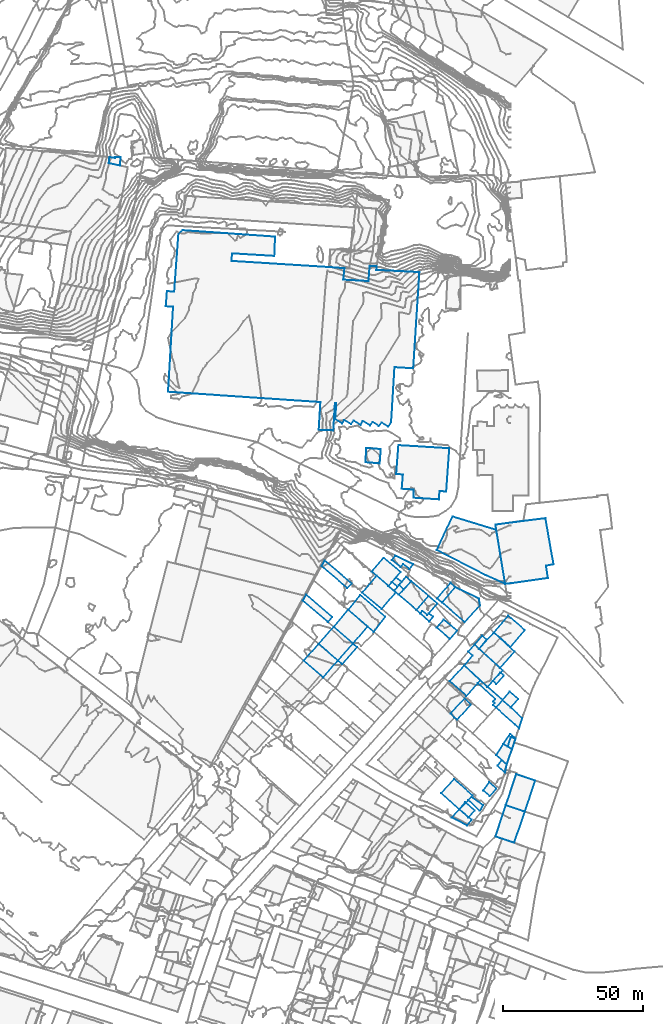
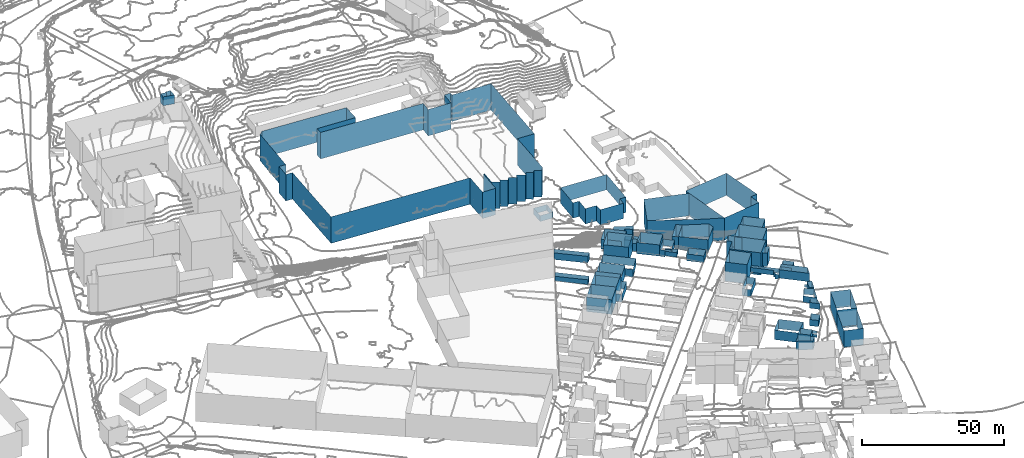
# Not in any storey, part 53 of 419: 46 walls.
"""IFC2X3 model written with IfcOpenShell, lengths in metres."""

from ifc_helpers import new_model, si_unit, frame, origin_with_axes, place, context, subcontext, project, faceted_brep, element, save


model = new_model("IFC2X3")

# Units and contexts
model_context = context("Model", 3, precision=1e-05, world=origin_with_axes())
body_context = subcontext(model_context, "Body", "Model", "MODEL_VIEW")
ifc_project = project(units=[si_unit("AREAUNIT", "SQUARE_METRE"), si_unit("LENGTHUNIT", "METRE")], contexts=[model_context])

# Walls
wall_1_placement = place(None, frame((971.4920204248, 255.6976909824, 80.3019999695), z_axis=(0.0, 0.0, 1.0), x_axis=(1.0, 0.0, 0.0)))
element("IfcWall", 1, at=wall_1_placement, Name="Mur 0", context=body_context, shape_type="Brep", body=[
    faceted_brep([(3.7, -3.3999999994, 2.6980000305), (1.9, -1.8999999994, 2.6980000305), (3.7, -3.3999999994, 0.0), (1.9, -1.8999999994, 0.0), (5.6, 2.0, 2.6980000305), (5.6, 2.0, 0.0), (2.5, 3.9000000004, 2.6980000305), (2.5, 3.9000000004, 0.0), (0.0, 0.0, 2.6980000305), (0.0, 0.0, 0.0)], [[[0, 1, 2]], [[2, 1, 3]], [[4, 0, 5]], [[5, 0, 2]], [[6, 4, 7]], [[7, 4, 5]], [[1, 8, 3]], [[3, 8, 9]], [[8, 6, 9]], [[9, 6, 7]]]),
])
wall_2_placement = place(None, frame((853.2920204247, 416.1976909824, 67.9707989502), z_axis=(0.0, 0.0, 1.0), x_axis=(1.0, 0.0, 0.0)))
element("IfcWall", 2, at=wall_2_placement, Name="Mur 0", context=body_context, shape_type="Brep", body=[
    faceted_brep([(23.5, 16.2000000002, 11.4292010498), (58.4, 14.0, 11.4292010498), (23.5, 16.2000000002, 0.0), (58.4, 14.0, 0.0), (23.7000000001, 18.9000000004, 11.4292010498), (23.7000000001, 18.9000000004, 0.0), (38.8, 18.0, 11.4292010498), (38.8, 18.0, 0.0), (39.1000000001, 24.9000000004, 11.4292010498), (39.1000000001, 24.9000000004, 0.0), (6.0, 27.2000000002, 11.4292010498), (6.0, 27.2000000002, 0.0), (4.5, 25.9000000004, 11.4292010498), (4.5, 25.9000000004, 0.0), (3.0, 5.2000000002, 11.4292010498), (3.0, 5.2000000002, 0.0), (0.4, 5.4000000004, 11.4292010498), (0.4, 5.4000000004, 0.0), (0.0, 0.0, 11.4292010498), (0.0, 0.0, 0.0), (2.6000000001, -0.2000000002, 11.4292010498), (2.6000000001, -0.2000000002, 0.0), (0.8, -30.5999999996, 11.4292010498), (0.8, -30.5999999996, 0.0), (55.3, -34.2999999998, 11.4292010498), (55.3, -34.2999999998, 0.0), (54.7000000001, -44.2000000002, 11.4292010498), (54.7000000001, -44.2000000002, 0.0), (59.9, -44.3999999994, 11.4292010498), (59.9, -44.3999999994, 0.0), (60.5, -34.5999999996, 11.4292010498), (60.5, -34.5999999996, 0.0), (61.0, -34.5999999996, 11.4292010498), (61.0, -34.5999999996, 0.0), (60.6000000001, -40.3999999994, 11.4292010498), (60.6000000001, -40.3999999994, 0.0), (63.0, -41.8999999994, 11.4292010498), (63.0, -41.8999999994, 0.0), (63.8, -40.7000000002, 11.4292010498), (63.8, -40.7000000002, 0.0), (66.2000000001, -42.2000000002, 11.4292010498), (66.2000000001, -42.2000000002, 0.0), (67.1000000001, -40.8999999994, 11.4292010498), (67.1000000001, -40.8999999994, 0.0), (69.6000000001, -42.5, 11.4292010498), (69.6000000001, -42.5, 0.0), (70.4, -41.0, 11.4292010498), (70.4, -41.0, 0.0), (73.0, -42.5999999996, 11.4292010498), (73.0, -42.5999999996, 0.0), (73.9, -41.3999999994, 11.4292010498), (73.9, -41.3999999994, 0.0), (76.2000000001, -42.7999999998, 11.4292010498), (76.2000000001, -42.7999999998, 0.0), (77.1000000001, -41.5999999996, 11.4292010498), (77.1000000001, -41.5999999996, 0.0), (79.6000000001, -43.0, 11.4292010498), (79.6000000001, -43.0, 0.0), (80.6000000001, -41.5, 11.4292010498), (80.6000000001, -41.5, 0.0), (81.8, -21.7999999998, 11.4292010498), (81.8, -21.7999999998, 0.0), (88.5, -22.2000000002, 11.4292010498), (88.5, -22.2000000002, 0.0), (90.7000000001, 12.2000000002, 11.4292010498), (90.7000000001, 12.2000000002, 0.0), (75.3, 13.0, 11.4292010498), (75.3, 13.0, 0.0), (75.4, 14.2999999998, 11.4292010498), (75.4, 14.2999999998, 0.0), (72.9, 14.4000000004, 11.4292010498), (72.9, 14.4000000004, 0.0), (72.5, 9.0, 11.4292010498), (72.5, 9.0, 0.0), (63.5, 9.5, 11.4292010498), (63.5, 9.5, 0.0), (63.9, 13.6000000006, 11.4292010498), (63.9, 13.6000000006, 0.0)], [[[0, 1, 2]], [[2, 1, 3]], [[4, 0, 5]], [[5, 0, 2]], [[6, 4, 7]], [[7, 4, 5]], [[8, 6, 9]], [[9, 6, 7]], [[10, 8, 11]], [[11, 8, 9]], [[12, 10, 13]], [[13, 10, 11]], [[14, 12, 15]], [[15, 12, 13]], [[16, 14, 17]], [[17, 14, 15]], [[18, 16, 19]], [[19, 16, 17]], [[20, 18, 21]], [[21, 18, 19]], [[22, 20, 23]], [[23, 20, 21]], [[24, 22, 25]], [[25, 22, 23]], [[26, 24, 27]], [[27, 24, 25]], [[28, 26, 29]], [[29, 26, 27]], [[30, 28, 31]], [[31, 28, 29]], [[32, 30, 33]], [[33, 30, 31]], [[34, 32, 35]], [[35, 32, 33]], [[36, 34, 37]], [[37, 34, 35]], [[38, 36, 39]], [[39, 36, 37]], [[40, 38, 41]], [[41, 38, 39]], [[42, 40, 43]], [[43, 40, 41]], [[44, 42, 45]], [[45, 42, 43]], [[46, 44, 47]], [[47, 44, 45]], [[48, 46, 49]], [[49, 46, 47]], [[50, 48, 51]], [[51, 48, 49]], [[52, 50, 53]], [[53, 50, 51]], [[54, 52, 55]], [[55, 52, 53]], [[56, 54, 57]], [[57, 54, 55]], [[58, 56, 59]], [[59, 56, 57]], [[60, 58, 61]], [[61, 58, 59]], [[62, 60, 63]], [[63, 60, 61]], [[64, 62, 65]], [[65, 62, 63]], [[66, 64, 67]], [[67, 64, 65]], [[68, 66, 69]], [[69, 66, 67]], [[70, 68, 71]], [[71, 68, 69]], [[72, 70, 73]], [[73, 70, 71]], [[74, 72, 75]], [[75, 72, 73]], [[1, 76, 3]], [[3, 76, 77]], [[76, 74, 77]], [[77, 74, 75]]]),
])
wall_3_placement = place(None, frame((950.2920204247, 311.5976909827, 77.1379985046), z_axis=(0.0, 0.0, 1.0), x_axis=(1.0, 0.0, 0.0)))
element("IfcWall", 3, at=wall_3_placement, Name="Mur 0", context=body_context, shape_type="Brep", body=[
    faceted_brep([(0.0, 0.0, 5.0620014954), (4.9, 5.7999999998, 5.0620014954), (0.0, 0.0, 0.0), (4.9, 5.7999999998, 0.0), (1.8, -1.4000000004, 5.0620014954), (1.8, -1.4000000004, 0.0), (6.5, 4.0999999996, 5.0620014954), (6.5, 4.0999999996, 0.0)], [[[0, 1, 2]], [[2, 1, 3]], [[4, 0, 5]], [[5, 0, 2]], [[1, 6, 3]], [[3, 6, 7]], [[6, 4, 7]], [[7, 4, 5]]]),
])
wall_4_placement = place(None, frame((952.0920204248, 310.1976909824, 76.712000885), z_axis=(0.0, 0.0, 1.0), x_axis=(1.0, 0.0, 0.0)))
element("IfcWall", 4, at=wall_4_placement, Name="Mur 0", context=body_context, shape_type="Brep", body=[
    faceted_brep([(8.1, -7.0, 5.587999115), (0.0, 0.0, 5.587999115), (8.1, -7.0, 0.0), (0.0, 0.0, 0.0), (13.6, -1.0, 5.587999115), (13.6, -1.0, 0.0), (13.2, 1.4000000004, 5.587999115), (13.2, 1.4000000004, 0.0), (4.7, 5.5, 5.587999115), (4.7, 5.5, 0.0)], [[[0, 1, 2]], [[2, 1, 3]], [[4, 0, 5]], [[5, 0, 2]], [[6, 4, 7]], [[7, 4, 5]], [[1, 8, 3]], [[3, 8, 9]], [[8, 6, 9]], [[9, 6, 7]]]),
])
wall_5_placement = place(None, frame((971.1920204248, 226.4976909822, 78.6313998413), z_axis=(0.0, 0.0, 1.0), x_axis=(1.0, 0.0, 0.0)))
element("IfcWall", 5, at=wall_5_placement, Name="Mur 0", context=body_context, shape_type="Brep", body=[
    faceted_brep([(6.7000000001, -2.1999999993, 7.1686001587), (0.0, 0.0, 7.1686001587), (6.7000000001, -2.1999999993, 0.0), (0.0, 0.0, 0.0), (10.5, 8.9000000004, 7.1686001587), (10.5, 8.9000000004, 0.0), (3.7000000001, 11.2000000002, 7.1686001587), (3.7000000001, 11.2000000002, 0.0)], [[[0, 1, 2]], [[2, 1, 3]], [[4, 0, 5]], [[5, 0, 2]], [[1, 6, 3]], [[3, 6, 7]], [[6, 4, 7]], [[7, 4, 5]]]),
])
wall_6_placement = place(None, frame((974.8920204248, 237.6976909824, 79.1500015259), z_axis=(0.0, 0.0, 1.0), x_axis=(1.0, 0.0, 0.0)))
element("IfcWall", 6, at=wall_6_placement, Name="Mur 0", context=body_context, shape_type="Brep", body=[
    faceted_brep([(6.7999999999, -2.2999999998, 7.3499984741), (0.0, 0.0, 7.3499984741), (6.7999999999, -2.2999999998, 0.0), (0.0, 0.0, 0.0), (10.5, 8.7999999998, 7.3499984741), (10.5, 8.7999999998, 0.0), (3.7, 11.1000000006, 7.3499984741), (3.7, 11.1000000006, 0.0)], [[[0, 1, 2]], [[2, 1, 3]], [[4, 0, 5]], [[5, 0, 2]], [[1, 6, 3]], [[3, 6, 7]], [[6, 4, 7]], [[7, 4, 5]]]),
])
wall_7_placement = place(None, frame((973.9920204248, 259.5976909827, 80.5100021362), z_axis=(0.0, 0.0, 1.0), x_axis=(1.0, 0.0, 0.0)))
element("IfcWall", 7, at=wall_7_placement, Name="Mur 0", context=body_context, shape_type="Brep", body=[
    faceted_brep([(1.6, -0.9000000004, 1.1899978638), (0.0, 0.0, 1.1899978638), (1.6, -0.9000000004, 0.0), (0.0, 0.0, 0.0), (2.7, 2.3999999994, 1.1899978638), (2.7, 2.3999999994, 0.0), (4.4, 2.0, 1.1899978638), (4.4, 2.0, 0.0), (2.4, 3.5999999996, 1.1899978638), (2.4, 3.5999999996, 0.0)], [[[0, 1, 2]], [[2, 1, 3]], [[4, 0, 5]], [[5, 0, 2]], [[6, 4, 7]], [[7, 4, 5]], [[1, 8, 3]], [[3, 8, 9]], [[8, 6, 9]], [[9, 6, 7]]]),
])
wall_8_placement = place(None, frame((971.3920204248, 272.5976909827, 80.4740020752), z_axis=(0.0, 0.0, 1.0), x_axis=(1.0, 0.0, 0.0)))
element("IfcWall", 8, at=wall_8_placement, Name="Mur 0", context=body_context, shape_type="Brep", body=[
    faceted_brep([(6.7999999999, -6.1000000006, 3.6259979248), (0.0, 0.0, 3.6259979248), (6.7999999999, -6.1000000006, 0.0), (0.0, 0.0, 0.0), (8.2, -7.4000000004, 3.6259979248), (8.2, -7.4000000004, 0.0), (9.3999999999, -3.7999999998, 3.6259979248), (9.3999999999, -3.7999999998, 0.0), (5.2, 0.0999999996, 3.6259979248), (5.2, 0.0999999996, 0.0), (2.2999999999, 2.7000000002, 3.6259979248), (2.2999999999, 2.7000000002, 0.0)], [[[0, 1, 2]], [[2, 1, 3]], [[4, 0, 5]], [[5, 0, 2]], [[6, 4, 7]], [[7, 4, 5]], [[8, 6, 9]], [[9, 6, 7]], [[1, 10, 3]], [[3, 10, 11]], [[10, 8, 11]], [[11, 8, 9]]]),
])
wall_9_placement = place(None, frame((964.8920204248, 281.3976909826, 79.9339981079), z_axis=(0.0, 0.0, 1.0), x_axis=(1.0, 0.0, 0.0)))
element("IfcWall", 9, at=wall_9_placement, Name="Mur 0", context=body_context, shape_type="Brep", body=[
    faceted_brep([(8.7999999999, -6.0999999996, 2.0660018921), (6.5, -8.7999999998, 2.0660018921), (8.7999999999, -6.0999999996, 0.0), (6.5, -8.7999999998, 0.0), (0.7999999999, 0.9000000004, 2.0660018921), (0.7999999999, 0.9000000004, 0.0), (0.0, 0.0, 2.0660018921), (0.0, 0.0, 0.0), (6.2, -5.7000000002, 2.0660018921), (6.2, -5.7000000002, 0.0), (5.5, -6.5999999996, 2.0660018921), (5.5, -6.5999999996, 0.0), (6.0, -7.0999999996, 2.0660018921), (6.0, -7.0999999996, 0.0), (5.3999999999, -7.7999999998, 2.0660018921), (5.3999999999, -7.7999999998, 0.0)], [[[0, 1, 2]], [[2, 1, 3]], [[4, 0, 5]], [[5, 0, 2]], [[6, 4, 7]], [[7, 4, 5]], [[8, 6, 9]], [[9, 6, 7]], [[10, 8, 11]], [[11, 8, 9]], [[12, 10, 13]], [[13, 10, 11]], [[1, 14, 3]], [[3, 14, 15]], [[14, 12, 15]], [[15, 12, 13]]]),
])
wall_10_placement = place(None, frame((975.5920204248, 258.6976909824, 80.5100021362), z_axis=(0.0, 0.0, 1.0), x_axis=(1.0, 0.0, 0.0)))
element("IfcWall", 10, at=wall_10_placement, Name="Mur 0", context=body_context, shape_type="Brep", body=[
    faceted_brep([(1.5, -1.0, 2.9899978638), (0.0, 0.0, 2.9899978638), (1.5, -1.0, 0.0), (0.0, 0.0, 0.0), (2.8, 2.9000000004, 2.9899978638), (2.8, 2.9000000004, 0.0), (1.1, 3.2999999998, 2.9899978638), (1.1, 3.2999999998, 0.0)], [[[0, 1, 2]], [[2, 1, 3]], [[4, 0, 5]], [[5, 0, 2]], [[1, 6, 3]], [[3, 6, 7]], [[6, 4, 7]], [[7, 4, 5]]]),
])
wall_11_placement = place(None, frame((959.9920204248, 287.6976909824, 78.2919990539), z_axis=(0.0, 0.0, 1.0), x_axis=(1.0, 0.0, 0.0)))
element("IfcWall", 11, at=wall_11_placement, Name="Mur 0", context=body_context, shape_type="Brep", body=[
    faceted_brep([(8.2999999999, -7.7000000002, 9.6080009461), (0.0, 0.0, 9.6080009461), (8.2999999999, -7.7000000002, 0.0), (0.0, 0.0, 0.0), (13.7, -1.7999999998, 9.6080009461), (13.7, -1.7999999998, 0.0), (3.7, 7.4000000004, 9.6080009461), (3.7, 7.4000000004, 0.0), (1.5, 4.9000000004, 9.6080009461), (1.5, 4.9000000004, 0.0), (3.0, 3.5, 9.6080009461), (3.0, 3.5, 0.0)], [[[0, 1, 2]], [[2, 1, 3]], [[4, 0, 5]], [[5, 0, 2]], [[6, 4, 7]], [[7, 4, 5]], [[8, 6, 9]], [[9, 6, 7]], [[1, 10, 3]], [[3, 10, 11]], [[10, 8, 11]], [[11, 8, 9]]]),
])
wall_12_placement = place(None, frame((971.1920204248, 338.0976909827, 68.7699966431), z_axis=(0.0, 0.0, 1.0), x_axis=(1.0, 0.0, 0.0)))
element("IfcWall", 12, at=wall_12_placement, Name="Mur 0", context=body_context, shape_type="Brep", body=[
    faceted_brep([(18.8, -19.1000000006, 9.6300033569), (5.5, -21.0, 9.6300033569), (18.8, -19.1000000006, 0.0), (5.5, -21.0, 0.0), (18.1, -14.7000000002, 9.6300033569), (18.1, -14.7000000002, 0.0), (20.8, -14.2000000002, 9.6300033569), (20.8, -14.2000000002, 0.0), (17.9, 2.2999999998, 9.6300033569), (17.9, 2.2999999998, 0.0), (0.0, 0.0, 9.6300033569), (0.0, 0.0, 0.0), (3.5, -21.2000000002, 9.6300033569), (3.5, -21.2000000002, 0.0)], [[[0, 1, 2]], [[2, 1, 3]], [[4, 0, 5]], [[5, 0, 2]], [[6, 4, 7]], [[7, 4, 5]], [[8, 6, 9]], [[9, 6, 7]], [[10, 8, 11]], [[11, 8, 9]], [[1, 12, 3]], [[3, 12, 13]], [[12, 10, 13]], [[13, 10, 11]]]),
])
wall_13_placement = place(None, frame((923.4920204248, 313.6976909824, 79.7437991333), z_axis=(0.0, 0.0, 1.0), x_axis=(1.0, 0.0, 0.0)))
element("IfcWall", 13, at=wall_13_placement, Name="Mur 0", context=body_context, shape_type="Brep", body=[
    faceted_brep([(0.0, 0.0, 6.9562008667), (5.2, 6.1000000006, 6.9562008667), (0.0, 0.0, 0.0), (5.2, 6.1000000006, 0.0), (6.9, -5.7999999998, 6.9562008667), (6.9, -5.7999999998, 0.0), (12.0, 0.1000000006, 6.9562008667), (12.0, 0.1000000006, 0.0)], [[[0, 1, 2]], [[2, 1, 3]], [[4, 0, 5]], [[5, 0, 2]], [[1, 6, 3]], [[3, 6, 7]], [[6, 4, 7]], [[7, 4, 5]]]),
])
wall_14_placement = place(None, frame((944.2920204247, 306.2976909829, 79.112399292), z_axis=(0.0, 0.0, 1.0), x_axis=(1.0, 0.0, 0.0)))
element("IfcWall", 14, at=wall_14_placement, Name="Mur 0", context=body_context, shape_type="Brep", body=[
    faceted_brep([(2.5, -0.5, 1.987600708), (3.0, 0.0, 1.987600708), (2.5, -0.5, 0.0), (3.0, 0.0, 0.0), (0.7000000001, 0.8999999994, 1.987600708), (0.7000000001, 0.8999999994, 0.0), (0.0, 0.0, 1.987600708), (0.0, 0.0, 0.0), (3.2000000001, -2.9000000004, 1.987600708), (3.2000000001, -2.9000000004, 0.0), (4.6000000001, -1.2000000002, 1.987600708), (4.6000000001, -1.2000000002, 0.0)], [[[0, 1, 2]], [[2, 1, 3]], [[4, 0, 5]], [[5, 0, 2]], [[6, 4, 7]], [[7, 4, 5]], [[8, 6, 9]], [[9, 6, 7]], [[1, 10, 3]], [[3, 10, 11]], [[10, 8, 11]], [[11, 8, 9]]]),
])
wall_15_placement = place(None, frame((970.5920204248, 299.4976909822, 76.8079986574), z_axis=(0.0, 0.0, 1.0), x_axis=(1.0, 0.0, 0.0)))
element("IfcWall", 15, at=wall_15_placement, Name="Mur 0", context=body_context, shape_type="Brep", body=[
    faceted_brep([(5.9, -5.1999999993, 8.7920013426), (0.0, 0.0, 8.7920013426), (5.9, -5.1999999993, 0.0), (0.0, 0.0, 0.0), (11.1, 0.8000000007, 8.7920013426), (11.1, 0.8000000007, 0.0), (5.2, 6.0, 8.7920013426), (5.2, 6.0, 0.0)], [[[0, 1, 2]], [[2, 1, 3]], [[4, 0, 5]], [[5, 0, 2]], [[1, 6, 3]], [[3, 6, 7]], [[6, 4, 7]], [[7, 4, 5]]]),
])
wall_16_placement = place(None, frame((950.1920204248, 328.9976909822, 68.682399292), z_axis=(0.0, 0.0, 1.0), x_axis=(1.0, 0.0, 0.0)))
element("IfcWall", 16, at=wall_16_placement, Name="Mur 0", context=body_context, shape_type="Brep", body=[
    faceted_brep([(5.6, 12.0, 9.717600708), (21.3, 7.2000000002, 9.717600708), (5.6, 12.0, 0.0), (21.3, 7.2000000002, 0.0), (0.0, 0.0, 9.717600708), (0.0, 0.0, 0.0), (17.5, -9.0, 9.717600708), (17.5, -9.0, 0.0), (24.5, -12.0999999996, 9.717600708), (24.5, -12.0999999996, 0.0)], [[[0, 1, 2]], [[2, 1, 3]], [[4, 0, 5]], [[5, 0, 2]], [[6, 4, 7]], [[7, 4, 5]], [[1, 8, 3]], [[3, 8, 9]], [[8, 6, 9]], [[9, 6, 7]]]),
])
wall_17_placement = place(None, frame((934.0920204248, 317.5976909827, 79.4200027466), z_axis=(0.0, 0.0, 1.0), x_axis=(1.0, 0.0, 0.0)))
element("IfcWall", 17, at=wall_17_placement, Name="Mur 0", context=body_context, shape_type="Brep", body=[
    faceted_brep([(0.0, 0.0, 3.3799972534), (1.5, 1.5999999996, 3.3799972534), (0.0, 0.0, 0.0), (1.5, 1.5999999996, 0.0), (2.0, -1.7999999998, 3.3799972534), (2.0, -1.7999999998, 0.0), (3.5, 0.0, 3.3799972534), (3.5, 0.0, 0.0)], [[[0, 1, 2]], [[2, 1, 3]], [[4, 0, 5]], [[5, 0, 2]], [[1, 6, 3]], [[3, 6, 7]], [[6, 4, 7]], [[7, 4, 5]]]),
])
wall_18_placement = place(None, frame((907.8920204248, 295.3976909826, 79.9370018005), z_axis=(0.0, 0.0, 1.0), x_axis=(1.0, 0.0, 0.0)))
element("IfcWall", 18, at=wall_18_placement, Name="Mur 0", context=body_context, shape_type="Brep", body=[
    faceted_brep([(0.0, 0.0, 6.2629981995), (5.3999999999, 6.0999999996, 6.2629981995), (0.0, 0.0, 0.0), (5.3999999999, 6.0999999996, 0.0), (6.8999999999, -5.9000000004, 6.2629981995), (6.8999999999, -5.9000000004, 0.0), (12.2999999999, 0.0999999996, 6.2629981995), (12.2999999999, 0.0999999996, 0.0)], [[[0, 1, 2]], [[2, 1, 3]], [[4, 0, 5]], [[5, 0, 2]], [[1, 6, 3]], [[3, 6, 7]], [[6, 4, 7]], [[7, 4, 5]]]),
])
wall_19_placement = place(None, frame((955.5920204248, 233.2976909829, 78.8300018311), z_axis=(0.0, 0.0, 1.0), x_axis=(1.0, 0.0, 0.0)))
element("IfcWall", 19, at=wall_19_placement, Name="Mur 0", context=body_context, shape_type="Brep", body=[
    faceted_brep([(5.4, -2.8000000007, 3.7699981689), (0.0, 0.0, 3.7699981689), (5.4, -2.8000000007, 0.0), (0.0, 0.0, 0.0), (7.1, -0.8000000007, 3.7699981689), (7.1, -0.8000000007, 0.0), (2.6, 2.8999999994, 3.7699981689), (2.6, 2.8999999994, 0.0)], [[[0, 1, 2]], [[2, 1, 3]], [[4, 0, 5]], [[5, 0, 2]], [[1, 6, 3]], [[3, 6, 7]], [[6, 4, 7]], [[7, 4, 5]]]),
])
wall_20_placement = place(None, frame((935.6920204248, 356.1976909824, 68.0809967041), z_axis=(0.0, 0.0, 1.0), x_axis=(1.0, 0.0, 0.0)))
element("IfcWall", 20, at=wall_20_placement, Name="Mur 0", context=body_context, shape_type="Brep", body=[
    faceted_brep([(0.8, 10.2999999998, 6.6190032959), (19.0, 9.2000000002, 6.6190032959), (0.8, 10.2999999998, 0.0), (19.0, 9.2000000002, 0.0), (0.0, 0.0, 6.6190032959), (0.0, 0.0, 0.0), (2.4, -0.2000000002, 6.6190032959), (2.4, -0.2000000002, 0.0), (2.0, -5.2999999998, 6.6190032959), (2.0, -5.2999999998, 0.0), (6.3, -5.5999999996, 6.6190032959), (6.3, -5.5999999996, 0.0), (6.2000000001, -8.5, 6.6190032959), (6.2000000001, -8.5, 0.0), (15.3, -9.0999999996, 6.6190032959), (15.3, -9.0999999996, 0.0), (15.5, -6.0999999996, 6.6190032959), (15.5, -6.0999999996, 0.0), (17.9, -6.2999999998, 6.6190032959), (17.9, -6.2999999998, 0.0)], [[[0, 1, 2]], [[2, 1, 3]], [[4, 0, 5]], [[5, 0, 2]], [[6, 4, 7]], [[7, 4, 5]], [[8, 6, 9]], [[9, 6, 7]], [[10, 8, 11]], [[11, 8, 9]], [[12, 10, 13]], [[13, 10, 11]], [[14, 12, 15]], [[15, 12, 13]], [[16, 14, 17]], [[17, 14, 15]], [[1, 18, 3]], [[3, 18, 19]], [[18, 16, 19]], [[19, 16, 17]]]),
])
wall_21_placement = place(None, frame((926.8920204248, 321.2976909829, 79.1452018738), z_axis=(0.0, 0.0, 1.0), x_axis=(1.0, 0.0, 0.0)))
element("IfcWall", 21, at=wall_21_placement, Name="Mur 0", context=body_context, shape_type="Brep", body=[
    faceted_brep([(6.0, -5.2000000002, 4.1547981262), (0.0, 0.0, 4.1547981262), (6.0, -5.2000000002, 0.0), (0.0, 0.0, 0.0), (10.2999999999, -0.2000000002, 4.1547981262), (10.2999999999, -0.2000000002, 0.0), (4.2999999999, 4.8999999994, 4.1547981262), (4.2999999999, 4.8999999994, 0.0)], [[[0, 1, 2]], [[2, 1, 3]], [[4, 0, 5]], [[5, 0, 2]], [[1, 6, 3]], [[3, 6, 7]], [[6, 4, 7]], [[7, 4, 5]]]),
])
wall_22_placement = place(None, frame((936.6920204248, 316.3976909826, 78.9909980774), z_axis=(0.0, 0.0, 1.0), x_axis=(1.0, 0.0, 0.0)))
element("IfcWall", 22, at=wall_22_placement, Name="Mur 0", context=body_context, shape_type="Brep", body=[
    faceted_brep([(0.0, 0.0, 2.5090019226), (2.5, 3.0, 2.5090019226), (0.0, 0.0, 0.0), (2.5, 3.0, 0.0), (1.7000000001, -1.5, 2.5090019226), (1.7000000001, -1.5, 0.0), (4.4, 1.4000000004, 2.5090019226), (4.4, 1.4000000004, 0.0)], [[[0, 1, 2]], [[2, 1, 3]], [[4, 0, 5]], [[5, 0, 2]], [[1, 6, 3]], [[3, 6, 7]], [[6, 4, 7]], [[7, 4, 5]]]),
])
wall_23_placement = place(None, frame((924.6920204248, 360.3976909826, 67.922800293), z_axis=(0.0, 0.0, 1.0), x_axis=(1.0, 0.0, 0.0)))
element("IfcWall", 23, at=wall_23_placement, Name="Mur 0", context=body_context, shape_type="Brep", body=[
    faceted_brep([(5.5, 4.7000000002, 2.577199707), (5.1, -0.4000000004, 2.577199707), (5.5, 4.7000000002, 0.0), (5.1, -0.4000000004, 0.0), (0.3, 5.0999999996, 2.577199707), (0.3, 5.0999999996, 0.0), (0.0, 0.0, 2.577199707), (0.0, 0.0, 0.0)], [[[0, 1, 2]], [[2, 1, 3]], [[4, 0, 5]], [[5, 0, 2]], [[1, 6, 3]], [[3, 6, 7]], [[6, 4, 7]], [[7, 4, 5]]]),
])
wall_24_placement = place(None, frame((961.4920204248, 239.5976909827, 79.2879989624), z_axis=(0.0, 0.0, 1.0), x_axis=(1.0, 0.0, 0.0)))
element("IfcWall", 24, at=wall_24_placement, Name="Mur 0", context=body_context, shape_type="Brep", body=[
    faceted_brep([(0.0, 0.0, 1.2120010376), (1.1, 1.0999999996, 1.2120010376), (0.0, 0.0, 0.0), (1.1, 1.0999999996, 0.0), (4.1, -3.9000000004, 1.2120010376), (4.1, -3.9000000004, 0.0), (5.2999999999, -1.9000000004, 1.2120010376), (5.2999999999, -1.9000000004, 0.0)], [[[0, 1, 2]], [[2, 1, 3]], [[4, 0, 5]], [[5, 0, 2]], [[1, 6, 3]], [[3, 6, 7]], [[6, 4, 7]], [[7, 4, 5]]]),
])
wall_25_placement = place(None, frame((963.6920204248, 295.0976909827, 78.1581996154), z_axis=(0.0, 0.0, 1.0), x_axis=(1.0, 0.0, 0.0)))
element("IfcWall", 25, at=wall_25_placement, Name="Mur 0", context=body_context, shape_type="Brep", body=[
    faceted_brep([(1.6, -1.5, 5.0418003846), (0.0, 0.0, 5.0418003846), (1.6, -1.5, 0.0), (0.0, 0.0, 0.0), (4.3, 1.7999999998, 5.0418003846), (4.3, 1.7999999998, 0.0), (2.8, 3.2000000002, 5.0418003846), (2.8, 3.2000000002, 0.0)], [[[0, 1, 2]], [[2, 1, 3]], [[4, 0, 5]], [[5, 0, 2]], [[1, 6, 3]], [[3, 6, 7]], [[6, 4, 7]], [[7, 4, 5]]]),
])
wall_26_placement = place(None, frame((966.7920204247, 242.9976909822, 79.511000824), z_axis=(0.0, 0.0, 1.0), x_axis=(1.0, 0.0, 0.0)))
element("IfcWall", 26, at=wall_26_placement, Name="Mur 0", context=body_context, shape_type="Brep", body=[
    faceted_brep([(4.7000000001, 0.7000000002, 2.688999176), (2.4, -2.0999999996, 2.688999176), (4.7000000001, 0.7000000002, 0.0), (2.4, -2.0999999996, 0.0), (2.2000000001, 2.9000000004, 2.688999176), (2.2000000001, 2.9000000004, 0.0), (0.0, 0.0, 2.688999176), (0.0, 0.0, 0.0)], [[[0, 1, 2]], [[2, 1, 3]], [[4, 0, 5]], [[5, 0, 2]], [[1, 6, 3]], [[3, 6, 7]], [[6, 4, 7]], [[7, 4, 5]]]),
])
wall_27_placement = place(None, frame((951.7920204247, 241.9976909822, 79.3996029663), z_axis=(0.0, 0.0, 1.0), x_axis=(1.0, 0.0, 0.0)))
element("IfcWall", 27, at=wall_27_placement, Name="Mur 0", context=body_context, shape_type="Brep", body=[
    faceted_brep([(0.0, 0.0, 4.1003970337), (4.6000000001, 5.0, 4.1003970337), (0.0, 0.0, 0.0), (4.6000000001, 5.0, 0.0), (6.4, -5.7999999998, 4.1003970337), (6.4, -5.7999999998, 0.0), (11.3, -0.8999999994, 4.1003970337), (11.3, -0.8999999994, 0.0)], [[[0, 1, 2]], [[2, 1, 3]], [[4, 0, 5]], [[5, 0, 2]], [[1, 6, 3]], [[3, 6, 7]], [[6, 4, 7]], [[7, 4, 5]]]),
])
wall_28_placement = place(None, frame((958.1920204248, 236.1976909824, 79.2257979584), z_axis=(0.0, 0.0, 1.0), x_axis=(1.0, 0.0, 0.0)))
element("IfcWall", 28, at=wall_28_placement, Name="Mur 0", context=body_context, shape_type="Brep", body=[
    faceted_brep([(3.3, -2.8999999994, 3.9742020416), (0.0, 0.0, 3.9742020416), (3.3, -2.8999999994, 0.0), (0.0, 0.0, 0.0), (5.5, -0.3999999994, 3.9742020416), (5.5, -0.3999999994, 0.0), (2.2000000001, 2.6000000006, 3.9742020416), (2.2000000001, 2.6000000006, 0.0)], [[[0, 1, 2]], [[2, 1, 3]], [[4, 0, 5]], [[5, 0, 2]], [[1, 6, 3]], [[3, 6, 7]], [[6, 4, 7]], [[7, 4, 5]]]),
])
wall_29_placement = place(None, frame((908.9920204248, 323.1976909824, 79.6230010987), z_axis=(0.0, 0.0, 1.0), x_axis=(1.0, 0.0, 0.0)))
element("IfcWall", 29, at=wall_29_placement, Name="Mur 0", context=body_context, shape_type="Brep", body=[
    faceted_brep([(0.0, 0.0, 2.8769989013), (1.1, 2.0, 2.8769989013), (0.0, 0.0, 0.0), (1.1, 2.0, 0.0), (9.2, -7.7999999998, 2.8769989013), (9.2, -7.7999999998, 0.0), (10.7999999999, -6.2000000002, 2.8769989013), (10.7999999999, -6.2000000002, 0.0)], [[[0, 1, 2]], [[2, 1, 3]], [[4, 0, 5]], [[5, 0, 2]], [[1, 6, 3]], [[3, 6, 7]], [[6, 4, 7]], [[7, 4, 5]]]),
])
wall_30_placement = place(None, frame((971.8920204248, 251.7976909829, 79.9519989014), z_axis=(0.0, 0.0, 1.0), x_axis=(1.0, 0.0, 0.0)))
element("IfcWall", 30, at=wall_30_placement, Name="Mur 0", context=body_context, shape_type="Brep", body=[
    faceted_brep([(3.2999999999, 0.5, 2.4480010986), (2.7, -2.5, 2.4480010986), (3.2999999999, 0.5, 0.0), (2.7, -2.5, 0.0), (1.5, 2.0, 2.4480010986), (1.5, 2.0, 0.0), (0.0, 0.0, 2.4480010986), (0.0, 0.0, 0.0)], [[[0, 1, 2]], [[2, 1, 3]], [[4, 0, 5]], [[5, 0, 2]], [[1, 6, 3]], [[3, 6, 7]], [[6, 4, 7]], [[7, 4, 5]]]),
])
wall_31_placement = place(None, frame((914.7920204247, 289.4976909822, 79.9668006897), z_axis=(0.0, 0.0, 1.0), x_axis=(1.0, 0.0, 0.0)))
element("IfcWall", 31, at=wall_31_placement, Name="Mur 0", context=body_context, shape_type="Brep", body=[
    faceted_brep([(1.6000000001, -1.2999999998, 3.2331993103), (0.0, 0.0, 3.2331993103), (1.6000000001, -1.2999999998, 0.0), (0.0, 0.0, 0.0), (6.9, 4.7000000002, 3.2331993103), (6.9, 4.7000000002, 0.0), (5.4, 6.0, 3.2331993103), (5.4, 6.0, 0.0)], [[[0, 1, 2]], [[2, 1, 3]], [[4, 0, 5]], [[5, 0, 2]], [[1, 6, 3]], [[3, 6, 7]], [[6, 4, 7]], [[7, 4, 5]]]),
])
wall_32_placement = place(None, frame((942.8920204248, 307.5976909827, 78.6759994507), z_axis=(0.0, 0.0, 1.0), x_axis=(1.0, 0.0, 0.0)))
element("IfcWall", 32, at=wall_32_placement, Name="Mur 0", context=body_context, shape_type="Brep", body=[
    faceted_brep([(0.0, 0.0, 2.8240005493), (4.2999999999, 5.0, 2.8240005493), (0.0, 0.0, 0.0), (4.2999999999, 5.0, 0.0), (1.3999999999, -1.2999999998, 2.8240005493), (1.3999999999, -1.2999999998, 0.0), (2.1, -0.4000000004, 2.8240005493), (2.1, -0.4000000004, 0.0), (3.8999999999, -1.7999999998, 2.8240005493), (3.8999999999, -1.7999999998, 0.0), (7.5, 2.2999999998, 2.8240005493), (7.5, 2.2999999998, 0.0)], [[[0, 1, 2]], [[2, 1, 3]], [[4, 0, 5]], [[5, 0, 2]], [[6, 4, 7]], [[7, 4, 5]], [[8, 6, 9]], [[9, 6, 7]], [[1, 10, 3]], [[3, 10, 11]], [[10, 8, 11]], [[11, 8, 9]]]),
])
wall_33_placement = place(None, frame((934.1920204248, 325.3976909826, 78.4769989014), z_axis=(0.0, 0.0, 1.0), x_axis=(1.0, 0.0, 0.0)))
element("IfcWall", 33, at=wall_33_placement, Name="Mur 0", context=body_context, shape_type="Brep", body=[
    faceted_brep([(0.0, 0.0, 3.7230010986), (1.2000000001, 1.5999999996, 3.7230010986), (0.0, 0.0, 0.0), (1.2000000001, 1.5999999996, 0.0), (3.0, -2.5, 3.7230010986), (3.0, -2.5, 0.0), (4.0, -1.5, 3.7230010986), (4.0, -1.5, 0.0), (6.2000000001, -3.2000000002, 3.7230010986), (6.2000000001, -3.2000000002, 0.0), (7.6, -1.5, 3.7230010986), (7.6, -1.5, 0.0)], [[[0, 1, 2]], [[2, 1, 3]], [[4, 0, 5]], [[5, 0, 2]], [[6, 4, 7]], [[7, 4, 5]], [[8, 6, 9]], [[9, 6, 7]], [[1, 10, 3]], [[3, 10, 11]], [[10, 8, 11]], [[11, 8, 9]]]),
])
wall_34_placement = place(None, frame((832.8920204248, 467.3976909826, 85.0730003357), z_axis=(0.0, 0.0, 1.0), x_axis=(1.0, 0.0, 0.0)))
element("IfcWall", 34, at=wall_34_placement, Name="Mur 0", context=body_context, shape_type="Brep", body=[
    faceted_brep([(0.0, 0.0, 3.8269996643), (0.2, 2.2000000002, 3.8269996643), (0.0, 0.0, 0.0), (0.2, 2.2000000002, 0.0), (4.0, -0.9000000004, 3.8269996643), (4.0, -0.9000000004, 0.0), (4.2, 2.2000000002, 3.8269996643), (4.2, 2.2000000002, 0.0), (2.2999999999, 2.2000000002, 3.8269996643), (2.2999999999, 2.2000000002, 0.0), (2.2999999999, 1.7999999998, 3.8269996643), (2.2999999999, 1.7999999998, 0.0)], [[[0, 1, 2]], [[2, 1, 3]], [[4, 0, 5]], [[5, 0, 2]], [[6, 4, 7]], [[7, 4, 5]], [[8, 6, 9]], [[9, 6, 7]], [[1, 10, 3]], [[3, 10, 11]], [[10, 8, 11]], [[11, 8, 9]]]),
])
wall_35_placement = place(None, frame((970.1920204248, 282.1976909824, 80.2448001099), z_axis=(0.0, 0.0, 1.0), x_axis=(1.0, 0.0, 0.0)))
element("IfcWall", 35, at=wall_35_placement, Name="Mur 0", context=body_context, shape_type="Brep", body=[
    faceted_brep([(1.3, -1.0999999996, 5.7551998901), (0.0, 0.0, 5.7551998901), (1.3, -1.0999999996, 0.0), (0.0, 0.0, 0.0), (4.0, 1.9000000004, 5.7551998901), (4.0, 1.9000000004, 0.0), (2.7000000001, 3.0, 5.7551998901), (2.7000000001, 3.0, 0.0)], [[[0, 1, 2]], [[2, 1, 3]], [[4, 0, 5]], [[5, 0, 2]], [[1, 6, 3]], [[3, 6, 7]], [[6, 4, 7]], [[7, 4, 5]]]),
])
wall_36_placement = place(None, frame((955.0920204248, 270.4976909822, 79.9700004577), z_axis=(0.0, 0.0, 1.0), x_axis=(1.0, 0.0, 0.0)))
element("IfcWall", 36, at=wall_36_placement, Name="Mur 0", context=body_context, shape_type="Brep", body=[
    faceted_brep([(2.4, -2.1999999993, 3.0299995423), (1.4, -1.3999999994, 3.0299995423), (2.4, -2.1999999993, 0.0), (1.4, -1.3999999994, 0.0), (7.3, 3.2000000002, 3.0299995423), (7.3, 3.2000000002, 0.0), (5.0, 5.4000000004, 3.0299995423), (5.0, 5.4000000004, 0.0), (0.0, 0.0, 3.0299995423), (0.0, 0.0, 0.0)], [[[0, 1, 2]], [[2, 1, 3]], [[4, 0, 5]], [[5, 0, 2]], [[6, 4, 7]], [[7, 4, 5]], [[1, 8, 3]], [[3, 8, 9]], [[8, 6, 9]], [[9, 6, 7]]]),
])
wall_37_placement = place(None, frame((973.6920204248, 275.2976909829, 80.483001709), z_axis=(0.0, 0.0, 1.0), x_axis=(1.0, 0.0, 0.0)))
element("IfcWall", 37, at=wall_37_placement, Name="Mur 0", context=body_context, shape_type="Brep", body=[
    faceted_brep([(2.9, -2.6000000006, 2.416998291), (0.0, 0.0, 2.416998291), (2.9, -2.6000000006, 0.0), (0.0, 0.0, 0.0), (5.6, 0.3999999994, 2.416998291), (5.6, 0.3999999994, 0.0), (2.6, 3.0, 2.416998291), (2.6, 3.0, 0.0)], [[[0, 1, 2]], [[2, 1, 3]], [[4, 0, 5]], [[5, 0, 2]], [[1, 6, 3]], [[3, 6, 7]], [[6, 4, 7]], [[7, 4, 5]]]),
])
wall_38_placement = place(None, frame((954.8920204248, 282.0976909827, 79.1539997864), z_axis=(0.0, 0.0, 1.0), x_axis=(1.0, 0.0, 0.0)))
element("IfcWall", 38, at=wall_38_placement, Name="Mur 0", context=body_context, shape_type="Brep", body=[
    faceted_brep([(0.0, 0.0, 8.2460002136), (5.1, 5.5999999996, 8.2460002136), (0.0, 0.0, 0.0), (5.1, 5.5999999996, 0.0), (5.8999999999, -5.2999999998, 8.2460002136), (5.8999999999, -5.2999999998, 0.0), (10.7999999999, 0.2000000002, 8.2460002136), (10.7999999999, 0.2000000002, 0.0)], [[[0, 1, 2]], [[2, 1, 3]], [[4, 0, 5]], [[5, 0, 2]], [[1, 6, 3]], [[3, 6, 7]], [[6, 4, 7]], [[7, 4, 5]]]),
])
wall_39_placement = place(None, frame((965.2920204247, 293.5976909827, 78.5780014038), z_axis=(0.0, 0.0, 1.0), x_axis=(1.0, 0.0, 0.0)))
element("IfcWall", 39, at=wall_39_placement, Name="Mur 0", context=body_context, shape_type="Brep", body=[
    faceted_brep([(7.5, -6.7999999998, 9.0219985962), (0.0, 0.0, 9.0219985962), (7.5, -6.7999999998, 0.0), (0.0, 0.0, 0.0), (12.7000000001, -1.0, 9.0219985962), (12.7000000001, -1.0, 0.0), (5.3, 5.8999999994, 9.0219985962), (5.3, 5.8999999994, 0.0)], [[[0, 1, 2]], [[2, 1, 3]], [[4, 0, 5]], [[5, 0, 2]], [[1, 6, 3]], [[3, 6, 7]], [[6, 4, 7]], [[7, 4, 5]]]),
])
wall_40_placement = place(None, frame((902.5920204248, 289.3976909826, 79.9370018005), z_axis=(0.0, 0.0, 1.0), x_axis=(1.0, 0.0, 0.0)))
element("IfcWall", 40, at=wall_40_placement, Name="Mur 0", context=body_context, shape_type="Brep", body=[
    faceted_brep([(0.0, 0.0, 6.2629981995), (5.3, 6.0, 6.2629981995), (0.0, 0.0, 0.0), (5.3, 6.0, 0.0), (6.9, -6.0, 6.2629981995), (6.9, -6.0, 0.0), (12.2, 0.0999999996, 6.2629981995), (12.2, 0.0999999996, 0.0)], [[[0, 1, 2]], [[2, 1, 3]], [[4, 0, 5]], [[5, 0, 2]], [[1, 6, 3]], [[3, 6, 7]], [[6, 4, 7]], [[7, 4, 5]]]),
])
wall_41_placement = place(None, frame((913.2920204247, 301.4976909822, 79.9740013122), z_axis=(0.0, 0.0, 1.0), x_axis=(1.0, 0.0, 0.0)))
element("IfcWall", 41, at=wall_41_placement, Name="Mur 0", context=body_context, shape_type="Brep", body=[
    faceted_brep([(6.9, -6.0, 4.5259986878), (0.0, 0.0, 4.5259986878), (6.9, -6.0, 0.0), (0.0, 0.0, 0.0), (12.1000000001, 0.1000000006, 4.5259986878), (12.1000000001, 0.1000000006, 0.0), (5.2000000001, 6.1000000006, 4.5259986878), (5.2000000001, 6.1000000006, 0.0)], [[[0, 1, 2]], [[2, 1, 3]], [[4, 0, 5]], [[5, 0, 2]], [[1, 6, 3]], [[3, 6, 7]], [[6, 4, 7]], [[7, 4, 5]]]),
])
wall_42_placement = place(None, frame((918.4920204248, 307.5976909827, 79.7623983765), z_axis=(0.0, 0.0, 1.0), x_axis=(1.0, 0.0, 0.0)))
element("IfcWall", 42, at=wall_42_placement, Name="Mur 0", context=body_context, shape_type="Brep", body=[
    faceted_brep([(13.2999999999, -2.5, 3.3376016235), (9.1, -7.9000000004, 3.3376016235), (13.2999999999, -2.5, 0.0), (9.1, -7.9000000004, 0.0), (4.2999999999, 5.2999999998, 3.3376016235), (4.2999999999, 5.2999999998, 0.0), (0.0, 0.0, 3.3376016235), (0.0, 0.0, 0.0)], [[[0, 1, 2]], [[2, 1, 3]], [[4, 0, 5]], [[5, 0, 2]], [[1, 6, 3]], [[3, 6, 7]], [[6, 4, 7]], [[7, 4, 5]]]),
])
wall_43_placement = place(None, frame((902.2920204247, 310.8976909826, 80.1476022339), z_axis=(0.0, 0.0, 1.0), x_axis=(1.0, 0.0, 0.0)))
element("IfcWall", 43, at=wall_43_placement, Name="Mur 0", context=body_context, shape_type="Brep", body=[
    faceted_brep([(0.0, 0.0, 2.0523977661), (1.2000000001, 2.0999999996, 2.0523977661), (0.0, 0.0, 0.0), (1.2000000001, 2.0999999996, 0.0), (9.0, -7.7000000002, 2.0523977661), (9.0, -7.7000000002, 0.0), (10.4, -5.9000000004, 2.0523977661), (10.4, -5.9000000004, 0.0)], [[[0, 1, 2]], [[2, 1, 3]], [[4, 0, 5]], [[5, 0, 2]], [[1, 6, 3]], [[3, 6, 7]], [[6, 4, 7]], [[7, 4, 5]]]),
])
wall_44_placement = place(None, frame((934.8920204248, 314.3976909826, 79.4939979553), z_axis=(0.0, 0.0, 1.0), x_axis=(1.0, 0.0, 0.0)))
element("IfcWall", 44, at=wall_44_placement, Name="Mur 0", context=body_context, shape_type="Brep", body=[
    faceted_brep([(0.0, 0.0, 3.5060020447), (1.7999999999, 2.0, 3.5060020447), (0.0, 0.0, 0.0), (1.7999999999, 2.0, 0.0), (1.7, -1.4000000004, 3.5060020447), (1.7, -1.4000000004, 0.0), (3.5, 0.5, 3.5060020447), (3.5, 0.5, 0.0)], [[[0, 1, 2]], [[2, 1, 3]], [[4, 0, 5]], [[5, 0, 2]], [[1, 6, 3]], [[3, 6, 7]], [[6, 4, 7]], [[7, 4, 5]]]),
])
wall_45_placement = place(None, frame((936.5920204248, 312.9976909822, 78.6872006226), z_axis=(0.0, 0.0, 1.0), x_axis=(1.0, 0.0, 0.0)))
element("IfcWall", 45, at=wall_45_placement, Name="Mur 0", context=body_context, shape_type="Brep", body=[
    faceted_brep([(0.0, 0.0, 4.8127993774), (4.5, 4.8000000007, 4.8127993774), (0.0, 0.0, 0.0), (4.5, 4.8000000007, 0.0), (6.3, -5.3999999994, 4.8127993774), (6.3, -5.3999999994, 0.0), (10.6, -0.3999999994, 4.8127993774), (10.6, -0.3999999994, 0.0)], [[[0, 1, 2]], [[2, 1, 3]], [[4, 0, 5]], [[5, 0, 2]], [[1, 6, 3]], [[3, 6, 7]], [[6, 4, 7]], [[7, 4, 5]]]),
])
wall_46_placement = place(None, frame((950.1920204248, 301.2976909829, 77.9925981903), z_axis=(0.0, 0.0, 1.0), x_axis=(1.0, 0.0, 0.0)))
element("IfcWall", 46, at=wall_46_placement, Name="Mur 0", context=body_context, shape_type="Brep", body=[
    faceted_brep([(2.5, 2.7999999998, 2.9074018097), (7.3, -1.2000000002, 2.9074018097), (2.5, 2.7999999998, 0.0), (7.3, -1.2000000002, 0.0), (0.0, 0.0, 2.9074018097), (0.0, 0.0, 0.0), (4.7000000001, -4.2000000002, 2.9074018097), (4.7000000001, -4.2000000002, 0.0)], [[[0, 1, 2]], [[2, 1, 3]], [[4, 0, 5]], [[5, 0, 2]], [[1, 6, 3]], [[3, 6, 7]], [[6, 4, 7]], [[7, 4, 5]]]),
])

save(model, "model.ifc")
